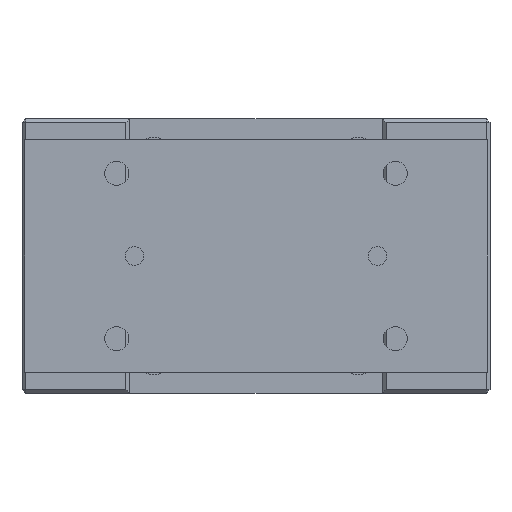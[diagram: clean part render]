
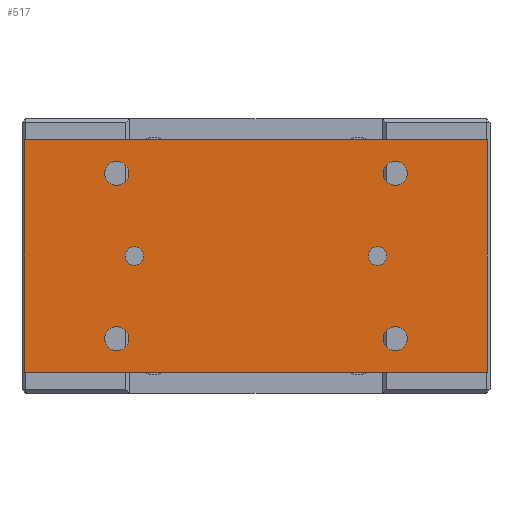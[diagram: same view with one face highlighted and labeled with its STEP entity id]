
A CAD part, left-side view. The second image highlights one B-rep face of the part: STEP entity #517.
In plain terms, the highlighted planar face has unit normal (-1, 0, 0).
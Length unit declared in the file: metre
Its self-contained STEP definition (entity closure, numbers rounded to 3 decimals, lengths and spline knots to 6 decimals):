
#517 = ADVANCED_FACE( '', ( #1202, #1203, #1204, #1205, #1206, #1207, #1208 ), #1209, .T. );
#1202 = FACE_BOUND( '', #2092, .T. );
#1203 = FACE_BOUND( '', #2093, .T. );
#1204 = FACE_BOUND( '', #2094, .T. );
#1205 = FACE_BOUND( '', #2095, .T. );
#1206 = FACE_BOUND( '', #2096, .T. );
#1207 = FACE_BOUND( '', #2097, .T. );
#1208 = FACE_OUTER_BOUND( '', #2098, .T. );
#1209 = PLANE( '', #2099 );
#2092 = EDGE_LOOP( '', ( #3429 ) );
#2093 = EDGE_LOOP( '', ( #3430 ) );
#2094 = EDGE_LOOP( '', ( #3431 ) );
#2095 = EDGE_LOOP( '', ( #3432 ) );
#2096 = EDGE_LOOP( '', ( #3433 ) );
#2097 = EDGE_LOOP( '', ( #3434 ) );
#2098 = EDGE_LOOP( '', ( #3435, #3436, #3437, #3438 ) );
#2099 = AXIS2_PLACEMENT_3D( '', #3439, #3440, #3441 );
#3429 = ORIENTED_EDGE( '', *, *, #4703, .F. );
#3430 = ORIENTED_EDGE( '', *, *, #4704, .T. );
#3431 = ORIENTED_EDGE( '', *, *, #4705, .F. );
#3432 = ORIENTED_EDGE( '', *, *, #4354, .F. );
#3433 = ORIENTED_EDGE( '', *, *, #4706, .F. );
#3434 = ORIENTED_EDGE( '', *, *, #4707, .F. );
#3435 = ORIENTED_EDGE( '', *, *, #4508, .T. );
#3436 = ORIENTED_EDGE( '', *, *, #4708, .T. );
#3437 = ORIENTED_EDGE( '', *, *, #4709, .T. );
#3438 = ORIENTED_EDGE( '', *, *, #4344, .T. );
#3439 = CARTESIAN_POINT( '', ( -0.143, -0.1245, -0.0115 ) );
#3440 = DIRECTION( '', ( -1., 0., 0. ) );
#3441 = DIRECTION( '', ( 0., 0., 1. ) );
#4344 = EDGE_CURVE( '', #5028, #5026, #5029, .T. );
#4354 = EDGE_CURVE( '', #5043, #5043, #5044, .T. );
#4508 = EDGE_CURVE( '', #5026, #5290, #5292, .T. );
#4703 = EDGE_CURVE( '', #5573, #5573, #5574, .T. );
#4704 = EDGE_CURVE( '', #5575, #5575, #5576, .T. );
#4705 = EDGE_CURVE( '', #5577, #5577, #5578, .T. );
#4706 = EDGE_CURVE( '', #5579, #5579, #5580, .T. );
#4707 = EDGE_CURVE( '', #5581, #5581, #5582, .T. );
#4708 = EDGE_CURVE( '', #5290, #5583, #5584, .T. );
#4709 = EDGE_CURVE( '', #5583, #5028, #5585, .T. );
#5026 = VERTEX_POINT( '', #6020 );
#5028 = VERTEX_POINT( '', #6023 );
#5029 = LINE( '', #6024, #6025 );
#5043 = VERTEX_POINT( '', #6076 );
#5044 = CIRCLE( '', #6077, 0.0065 );
#5290 = VERTEX_POINT( '', #6396 );
#5292 = LINE( '', #6399, #6400 );
#5573 = VERTEX_POINT( '', #6867 );
#5574 = CIRCLE( '', #6868, 0.005 );
#5575 = VERTEX_POINT( '', #6869 );
#5576 = CIRCLE( '', #6870, 0.005 );
#5577 = VERTEX_POINT( '', #6871 );
#5578 = CIRCLE( '', #6872, 0.0065 );
#5579 = VERTEX_POINT( '', #6873 );
#5580 = CIRCLE( '', #6874, 0.0065 );
#5581 = VERTEX_POINT( '', #6875 );
#5582 = CIRCLE( '', #6876, 0.0065 );
#5583 = VERTEX_POINT( '', #6877 );
#5584 = LINE( '', #6878, #6879 );
#5585 = LINE( '', #6880, #6881 );
#6020 = CARTESIAN_POINT( '', ( -0.143, -0.1245, -0.1365 ) );
#6023 = CARTESIAN_POINT( '', ( -0.143, 0.1245, -0.1365 ) );
#6024 = CARTESIAN_POINT( '', ( -0.143, 0.1245, -0.1365 ) );
#6025 = VECTOR( '', #7353, 1. );
#6076 = CARTESIAN_POINT( '', ( -0.143, 0.075, -0.112 ) );
#6077 = AXIS2_PLACEMENT_3D( '', #7361, #7362, #7363 );
#6396 = CARTESIAN_POINT( '', ( -0.143, -0.1245, -0.0115 ) );
#6399 = CARTESIAN_POINT( '', ( -0.143, -0.1245, -0.1365 ) );
#6400 = VECTOR( '', #7543, 1. );
#6867 = CARTESIAN_POINT( '', ( -0.143, -0.0705, -0.074 ) );
#6868 = AXIS2_PLACEMENT_3D( '', #7751, #7752, #7753 );
#6869 = CARTESIAN_POINT( '', ( -0.143, 0.0705, -0.074 ) );
#6870 = AXIS2_PLACEMENT_3D( '', #7754, #7755, #7756 );
#6871 = CARTESIAN_POINT( '', ( -0.143, -0.075, -0.112 ) );
#6872 = AXIS2_PLACEMENT_3D( '', #7757, #7758, #7759 );
#6873 = CARTESIAN_POINT( '', ( -0.143, -0.075, -0.023 ) );
#6874 = AXIS2_PLACEMENT_3D( '', #7760, #7761, #7762 );
#6875 = CARTESIAN_POINT( '', ( -0.143, 0.075, -0.023 ) );
#6876 = AXIS2_PLACEMENT_3D( '', #7763, #7764, #7765 );
#6877 = CARTESIAN_POINT( '', ( -0.143, 0.1245, -0.0115 ) );
#6878 = CARTESIAN_POINT( '', ( -0.143, -0.1245, -0.0115 ) );
#6879 = VECTOR( '', #7766, 1. );
#6880 = CARTESIAN_POINT( '', ( -0.143, 0.1245, -0.0115 ) );
#6881 = VECTOR( '', #7767, 1. );
#7353 = DIRECTION( '', ( 0., -1., 0. ) );
#7361 = CARTESIAN_POINT( '', ( -0.143, 0.075, -0.1185 ) );
#7362 = DIRECTION( '', ( -1., 0., 0. ) );
#7363 = DIRECTION( '', ( 0., 0., 1. ) );
#7543 = DIRECTION( '', ( 0., 0., 1. ) );
#7751 = CARTESIAN_POINT( '', ( -0.143, -0.0655, -0.074 ) );
#7752 = DIRECTION( '', ( -1., 0., 0. ) );
#7753 = DIRECTION( '', ( 0., -1., 0. ) );
#7754 = CARTESIAN_POINT( '', ( -0.143, 0.0655, -0.074 ) );
#7755 = DIRECTION( '', ( 1., 0., 0. ) );
#7756 = DIRECTION( '', ( 0., 1., 0. ) );
#7757 = CARTESIAN_POINT( '', ( -0.143, -0.075, -0.1185 ) );
#7758 = DIRECTION( '', ( -1., 0., 0. ) );
#7759 = DIRECTION( '', ( 0., 0., 1. ) );
#7760 = CARTESIAN_POINT( '', ( -0.143, -0.075, -0.0295 ) );
#7761 = DIRECTION( '', ( -1., 0., 0. ) );
#7762 = DIRECTION( '', ( 0., 0., 1. ) );
#7763 = CARTESIAN_POINT( '', ( -0.143, 0.075, -0.0295 ) );
#7764 = DIRECTION( '', ( -1., 0., 0. ) );
#7765 = DIRECTION( '', ( 0., 0., 1. ) );
#7766 = DIRECTION( '', ( 0., 1., 0. ) );
#7767 = DIRECTION( '', ( 0., 0., -1. ) );
